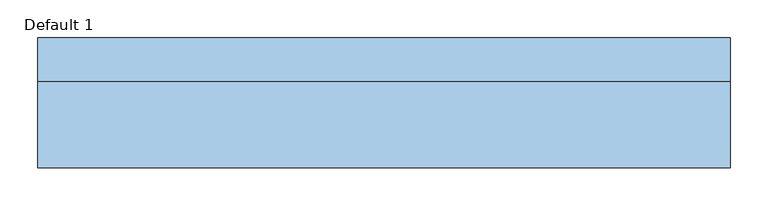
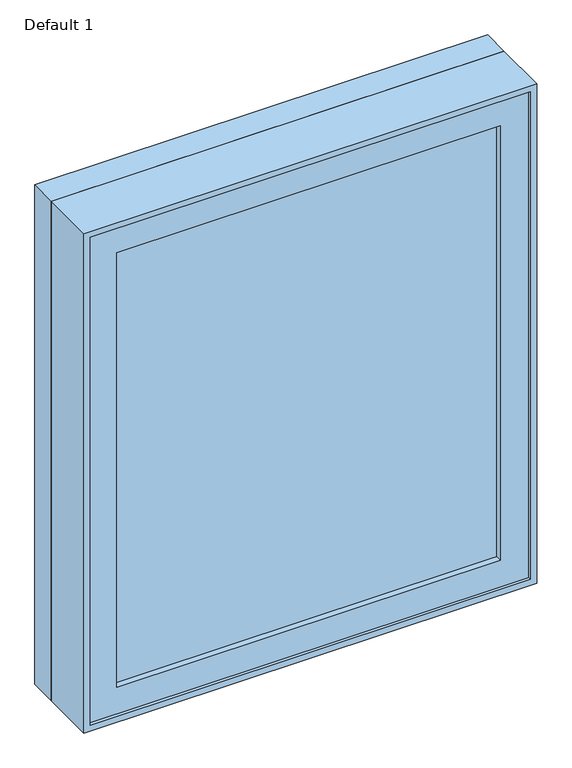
"""IFC4 building model written with IfcOpenShell, lengths in millimetres: window geometry, Planitar-Casement-Single_Left : Default 1."""

import ifcopenshell
import ifcopenshell.guid

model = None  # the IFC model being written
_history = None  # IfcOwnerHistory: only IFC2X3 demands one
_inside = {}  # id of a spatial element -> (the spatial element, [elements in it])
_under = {}  # id of a project, library or spatial element -> (it, [spatial elements below it])
_declared = {}  # id of a project -> (the project, [libraries it declares])
_typed = {}  # id of a type object -> (the type object, [elements of that type])
_made_of = {}  # id of a material, layer set ... -> (it, [elements and type objects made of it])


def new_model(schema):
    """Start an empty IFC model of exactly this schema.

    Asked for "IFC4X3", IfcOpenShell would pick the latest addendum, in which some entities
    have other attributes; the version numbers below select the first issue.
    IFC2X3 requires an IfcOwnerHistory on every rooted entity: one is made here for all.
    """
    global model, _history
    if schema == "IFC4X3":
        model = ifcopenshell.file(schema_version=(4, 3, 0, 0))
    else:
        model = ifcopenshell.file(schema=schema)
    _inside.clear()
    _under.clear()
    _declared.clear()
    _typed.clear()
    _made_of.clear()
    _history = None
    if model.schema == "IFC2X3":
        org = make("IfcOrganization", Name="unknown")
        user = make(
            "IfcPersonAndOrganization",
            ThePerson=make("IfcPerson", FamilyName="unknown"),
            TheOrganization=org,
        )
        app = make(
            "IfcApplication",
            ApplicationDeveloper=org,
            Version="unknown",
            ApplicationFullName="unknown",
            ApplicationIdentifier="unknown",
        )
        _history = make(
            "IfcOwnerHistory",
            OwningUser=user,
            OwningApplication=app,
            ChangeAction="ADDED",
            CreationDate=0,
        )
    return model


def make(cls, **values):
    """One entity of the class cls with the attributes given. An attribute that is None is left unset."""
    return model.create_entity(
        cls, **{name: value for name, value in values.items() if value is not None}
    )


def rooted(cls, **values):
    """An entity with a GlobalId (a new one), such as an element, a storey or a relation."""
    return make(cls, GlobalId=ifcopenshell.guid.new(), OwnerHistory=_history, **values)


def si_unit(unit_type, name, prefix=None):
    """IfcSIUnit, for example si_unit("LENGTHUNIT", "METRE", prefix="MILLI")."""
    return make("IfcSIUnit", UnitType=unit_type, Prefix=prefix, Name=name)


def assignment(units):
    """IfcUnitAssignment: the units of a project."""
    return None if units is None else make("IfcUnitAssignment", Units=units)


def point(xyz):
    """IfcCartesianPoint."""
    return None if xyz is None else make("IfcCartesianPoint", Coordinates=xyz)


def direction(xyz):
    """IfcDirection."""
    return None if xyz is None else make("IfcDirection", DirectionRatios=xyz)


def frame(location, z_axis=None, x_axis=None):
    """IfcAxis2Placement3D, a coordinate frame: its origin and axes. An axis left out is left unset."""
    return make(
        "IfcAxis2Placement3D",
        Location=point(location),
        Axis=direction(z_axis),
        RefDirection=direction(x_axis),
    )


def origin():
    """The frame at (0, 0, 0) with its axes left unset."""
    return frame((0.0, 0.0, 0.0))


def place(relative_to, where):
    """IfcLocalPlacement: puts the frame where relative to a parent placement (None: the world)."""
    return make(
        "IfcLocalPlacement", PlacementRelTo=relative_to, RelativePlacement=where
    )


def context(
    kind, dimensions, precision=None, world=None, true_north=None, identifier=None
):
    """IfcGeometricRepresentationContext, for example the 3D "Model" context."""
    return make(
        "IfcGeometricRepresentationContext",
        ContextIdentifier=identifier,
        ContextType=kind,
        CoordinateSpaceDimension=dimensions,
        Precision=precision,
        WorldCoordinateSystem=world,
        TrueNorth=true_north,
    )


def project(units=None, contexts=None):
    """IfcProject with its units and contexts."""
    return rooted(
        "IfcProject",
        Name="project",
        RepresentationContexts=contexts,
        UnitsInContext=assignment(units),
    )


def spatial(cls, under=None, at=None, **own):
    """A site, building, storey or space (cls), placed at a placement, below another one or the project."""
    s = rooted(cls, ObjectPlacement=at, **own)
    if under is not None:
        _under.setdefault(under.id(), (under, []))[1].append(s)
    return s


def polyline(points):
    """IfcPolyline through the points."""
    return make("IfcPolyline", Points=[point(p) for p in points])


def outline(outer, holes=None, kind="AREA"):
    """IfcArbitraryClosedProfileDef: a profile drawn as a closed curve; with holes, ...WithVoids."""
    if holes is None:
        return make("IfcArbitraryClosedProfileDef", ProfileType=kind, OuterCurve=outer)
    return make(
        "IfcArbitraryProfileDefWithVoids",
        ProfileType=kind,
        OuterCurve=outer,
        InnerCurves=holes,
    )


def extrude(swept, where, along, depth):
    """IfcExtrudedAreaSolid: the profile swept, set in the frame where, extruded along a direction by depth."""
    return make(
        "IfcExtrudedAreaSolid",
        SweptArea=swept,
        Position=where,
        ExtrudedDirection=direction(along),
        Depth=depth,
    )


def faces_of(points, faces, orient=None, outer=None):
    """IfcFace entities. A face is a list of loops; a loop is a list of indices into points, from 0.

    orient and outer hold one flag for each loop. By default every Orientation is true, the
    first loop of a face is its IfcFaceOuterBound and the others are IfcFaceBound.
    """
    made = []
    for i, loops in enumerate(faces):
        bounds = []
        for j, loop in enumerate(loops):
            is_outer = j == 0 if outer is None else outer[i][j]
            bounds.append(
                make(
                    "IfcFaceOuterBound" if is_outer else "IfcFaceBound",
                    Bound=make("IfcPolyLoop", Polygon=[points[k] for k in loop]),
                    Orientation=True if orient is None else orient[i][j],
                )
            )
        made.append(make("IfcFace", Bounds=bounds))
    return made


def faceted_brep(points, faces, orient=None, outer=None, voids=None):
    """IfcFacetedBrep: a solid bounded by flat faces; with voids (closed shells), ...WithVoids."""
    shared = [point(p) for p in points]
    hull = make("IfcClosedShell", CfsFaces=faces_of(shared, faces, orient, outer))
    if voids is None:
        return make("IfcFacetedBrep", Outer=hull)
    return make(
        "IfcFacetedBrepWithVoids",
        Outer=hull,
        Voids=[
            make(cls, CfsFaces=faces_of(shared, fs, o, b)) for cls, fs, o, b in voids
        ],
    )


def shape(context_of_items, identifier, shape_type, items):
    """IfcShapeRepresentation: the items that make up one representation, for example the "Body"."""
    return make(
        "IfcShapeRepresentation",
        ContextOfItems=context_of_items,
        RepresentationIdentifier=identifier,
        RepresentationType=shape_type,
        Items=items,
    )


def source(mapping_origin, context_of_items, identifier, shape_type, items):
    """IfcRepresentationMap: a shape defined once, which mapped items show again and again."""
    return make(
        "IfcRepresentationMap",
        MappingOrigin=mapping_origin,
        MappedRepresentation=shape(context_of_items, identifier, shape_type, items),
    )


def transform(
    local_origin,
    x_axis=None,
    y_axis=None,
    z_axis=None,
    scale=None,
    scale2=None,
    scale3=None,
    uniform=True,
):
    """IfcCartesianTransformationOperator3D, or its non-uniform kind. x_axis, y_axis, z_axis: its Axis1, 2, 3."""
    if uniform:
        return make(
            "IfcCartesianTransformationOperator3D",
            Axis1=direction(x_axis),
            Axis2=direction(y_axis),
            LocalOrigin=point(local_origin),
            Scale=scale,
            Axis3=direction(z_axis),
        )
    return make(
        "IfcCartesianTransformationOperator3DnonUniform",
        Axis1=direction(x_axis),
        Axis2=direction(y_axis),
        LocalOrigin=point(local_origin),
        Scale=scale,
        Axis3=direction(z_axis),
        Scale2=scale2,
        Scale3=scale3,
    )


def mapped(mapping_source, mapping_target):
    """IfcMappedItem: shows the shape of a source again, moved by a transform."""
    return make(
        "IfcMappedItem", MappingSource=mapping_source, MappingTarget=mapping_target
    )


def made_of(thing, what):
    """Note that an element or type object is made of a material, layer set ...; save() writes the relation."""
    if what is not None:
        _made_of.setdefault(what.id(), (what, []))[1].append(thing)
    return thing


def element(
    cls,
    number,
    at=None,
    inside=None,
    cuts=None,
    type_object=None,
    material=None,
    context=None,
    identifier="Body",
    shape_type=None,
    held_by="IfcProductDefinitionShape",
    body=None,
    shapes=None,
    **own,
):
    """One element of the class cls, such as IfcWall. Its Tag is "e" and its number.

    at: its placement. inside: the storey or other place that contains it. cuts: it is an
    opening in that element (IfcRelVoidsElement). A single representation is given by context,
    identifier, shape_type and body (its items); several are given by shapes. held_by: the class
    of the entity that holds the representations. save() writes the other relations.
    """
    e = rooted(cls, Tag="e%d" % number, ObjectPlacement=at, **own)
    if body is not None:
        shapes = [shape(context, identifier, shape_type, body)]
    if shapes is not None:
        e.Representation = make(held_by, Representations=shapes)
    if inside is not None:
        _inside.setdefault(inside.id(), (inside, []))[1].append(e)
    if cuts is not None:
        rooted(
            "IfcRelVoidsElement", RelatingBuildingElement=cuts, RelatedOpeningElement=e
        )
    if type_object is not None:
        _typed.setdefault(type_object.id(), (type_object, []))[1].append(e)
    return made_of(e, material)


def aggregate(whole, parts):
    """IfcRelAggregates: a whole, such as a stair, and the parts it consists of."""
    return rooted("IfcRelAggregates", RelatingObject=whole, RelatedObjects=parts)


def save(model, path):
    """Write the relations noted so far, then the file.

    IfcRelAggregates (storeys below a building ...), IfcRelContainedInSpatialStructure (elements
    in a storey), IfcRelDefinesByType, IfcRelAssociatesMaterial and IfcRelDeclares: one each for
    every whole, place, type object, material and project.
    """
    for whole, parts in _under.values():
        aggregate(whole, parts)
    for where, things in _inside.values():
        rooted(
            "IfcRelContainedInSpatialStructure",
            RelatedElements=things,
            RelatingStructure=where,
        )
    for kind, things in _typed.values():
        rooted("IfcRelDefinesByType", RelatedObjects=things, RelatingType=kind)
    for what, things in _made_of.values():
        rooted("IfcRelAssociatesMaterial", RelatedObjects=things, RelatingMaterial=what)
    for by, libraries in _declared.values():
        rooted("IfcRelDeclares", RelatingContext=by, RelatedDefinitions=libraries)
    model.write(path)


def default_1_c114c924(model_context):
    return source(origin(), model_context, "Body", "SolidModel", [
        extrude(outline(polyline([(387.35, -76.2), (-387.35, -76.2), (-387.35, -69.85), (387.35, -69.85), (387.35, -76.2)])), frame((0.0, 0.0, 984.25), z_axis=(0.0, 0.0, 1.0), x_axis=(1.0, 0.0, 0.0)), (0.0, 0.0, 1.0), 927.1),
        extrude(outline(polyline([(-387.35, -57.15), (387.35, -57.15), (387.35, -63.5), (-387.35, -63.5), (-387.35, -57.15)])), frame((0.0, 0.0, 984.25), z_axis=(0.0, 0.0, 1.0), x_axis=(1.0, 0.0, 0.0)), (0.0, 0.0, 1.0), 927.1),
        extrude(outline(polyline([(1968.5, 444.5), (1968.5, -444.5), (927.1, -444.5), (927.1, 444.5), (1968.5, 444.5)]), holes=[polyline([(1911.35, -387.35), (1911.35, 387.35), (984.25, 387.35), (984.25, -387.35), (1911.35, -387.35)])]), frame((0.0, -88.9, 0.0), z_axis=(0.0, 1.0, 0.0), x_axis=(0.0, 0.0, 1.0)), (0.0, 0.0, 1.0), 44.45),
        extrude(outline(polyline([(1981.2, -457.2), (914.4, -457.2), (914.4, 457.2), (1981.2, 457.2), (1981.2, -457.2)]), holes=[polyline([(1962.15, 438.15), (933.45, 438.15), (933.45, -438.15), (1962.15, -438.15), (1962.15, 438.15)])]), frame((0.0, 19.05, 0.0), z_axis=(0.0, 1.0, 0.0), x_axis=(0.0, 0.0, 1.0)), (0.0, 0.0, 1.0), 57.15),
        faceted_brep([(425.45, -44.45, 1949.45), (-425.45, -44.45, 1949.45), (-425.45, 19.05, 1949.45), (425.45, 19.05, 1949.45), (444.5, -95.25, 1968.5), (-444.5, -95.25, 1968.5), (-444.5, -44.45, 1968.5), (444.5, -44.45, 1968.5), (457.2, 19.05, 1981.2), (-457.2, 19.05, 1981.2), (-457.2, -95.25, 1981.2), (457.2, -95.25, 1981.2), (-425.45, -44.45, 946.15), (-425.45, 19.05, 946.15), (-444.5, -95.25, 927.1), (-444.5, -44.45, 927.1), (-457.2, 19.05, 914.4), (-457.2, -95.25, 914.4), (425.45, -44.45, 946.15), (425.45, 19.05, 946.15), (444.5, -95.25, 927.1), (444.5, -44.45, 927.1), (457.2, 19.05, 914.4), (457.2, -95.25, 914.4)], [[[0, 1, 2, 3]], [[4, 5, 6, 7]], [[8, 9, 10, 11]], [[1, 12, 13, 2]], [[5, 14, 15, 6]], [[9, 16, 17, 10]], [[12, 18, 19, 13]], [[14, 20, 21, 15]], [[16, 22, 23, 17]], [[9, 8, 22, 16], [3, 2, 13, 19]], [[18, 0, 3, 19]], [[7, 6, 15, 21], [1, 0, 18, 12]], [[20, 4, 7, 21]], [[22, 8, 11, 23]], [[11, 10, 17, 23], [5, 4, 20, 14]]]),
    ])


if __name__ == "__main__":
    model = new_model("IFC4")
    model_context = context("Model", 3, world=origin())
    ifc_project = project(units=[si_unit("LENGTHUNIT", "METRE", prefix="MILLI")], contexts=[model_context])
    site = spatial("IfcSite", under=ifc_project)
    building = spatial("IfcBuilding", under=site)
    placement = place(None, origin())
    default_1_shape = default_1_c114c924(model_context)
    element("IfcWindow", 1, ObjectType="Planitar-Casement-Single_Left : Default 1", at=placement, inside=building, context=model_context, shape_type="MappedRepresentation", body=[
        mapped(default_1_shape, transform((0.0, 0.0, 0.0), x_axis=(1.0, 0.0, 0.0), y_axis=(0.0, 1.0, 0.0), z_axis=(0.0, 0.0, 1.0))),
    ])
    save(model, "model.ifc")
